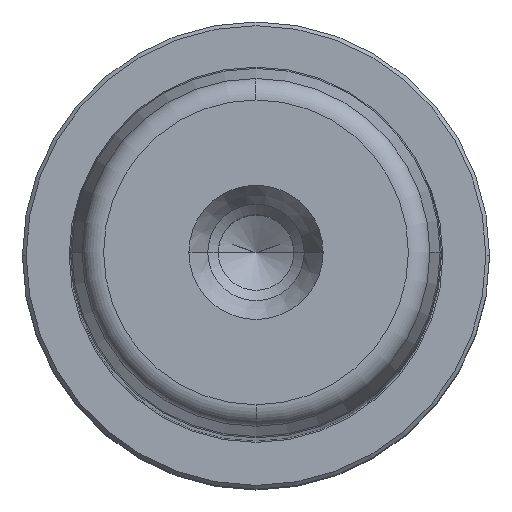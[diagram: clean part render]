
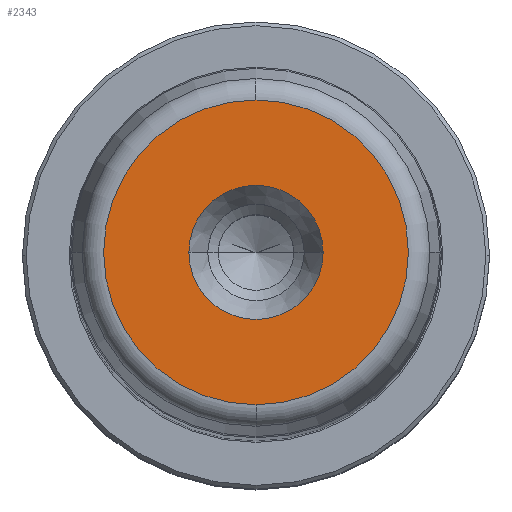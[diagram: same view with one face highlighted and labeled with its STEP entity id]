
A CAD part, top view. The second image highlights one B-rep face of the part: STEP entity #2343.
In plain terms, the highlighted planar face has unit normal (0, 0, 1).
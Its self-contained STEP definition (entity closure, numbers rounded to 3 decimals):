
#431=CARTESIAN_POINT('',(9.05,0.,250.0));
#432=VERTEX_POINT('',#431);
#439=CARTESIAN_POINT('',(-9.05,0.,250.0));
#440=VERTEX_POINT('',#439);
#441=CARTESIAN_POINT('',(0.0,0.,250.0));
#442=DIRECTION('',(0.0,0.0,1.0));
#443=DIRECTION('',(1.0,0.0,0.0));
#444=AXIS2_PLACEMENT_3D('',#441,#442,#443);
#445=CIRCLE('',#444,9.05);
#446=EDGE_CURVE('',#432,#440,#445,.T.);
#463=CARTESIAN_POINT('',(0.0,-20.554,250.0));
#464=VERTEX_POINT('',#463);
#474=CARTESIAN_POINT('',(0.,20.554,250.0));
#475=VERTEX_POINT('',#474);
#476=CARTESIAN_POINT('',(0.0,0.,250.0));
#477=DIRECTION('',(0.0,0.0,1.0));
#478=DIRECTION('',(1.0,0.0,0.0));
#479=AXIS2_PLACEMENT_3D('',#476,#477,#478);
#480=CIRCLE('',#479,20.554);
#481=EDGE_CURVE('',#475,#464,#480,.T.);
#2304=CARTESIAN_POINT('',(20.554,0.,250.0));
#2305=VERTEX_POINT('',#2304);
#2306=CARTESIAN_POINT('',(0.0,0.,250.0));
#2307=DIRECTION('',(0.0,0.0,1.0));
#2308=DIRECTION('',(1.0,0.0,0.0));
#2309=AXIS2_PLACEMENT_3D('',#2306,#2307,#2308);
#2310=CIRCLE('',#2309,20.554);
#2311=EDGE_CURVE('',#2305,#475,#2310,.T.);
#2313=CARTESIAN_POINT('',(0.0,0.,250.0));
#2314=DIRECTION('',(0.0,0.0,1.0));
#2315=DIRECTION('',(1.0,0.0,0.0));
#2316=AXIS2_PLACEMENT_3D('',#2313,#2314,#2315);
#2317=CIRCLE('',#2316,20.554);
#2318=EDGE_CURVE('',#464,#2305,#2317,.T.);
#2323=CARTESIAN_POINT('',(14.802,0.,250.0));
#2324=DIRECTION('',(0.0,0.0,1.0));
#2325=DIRECTION('',(0.0,-1.0,0.0));
#2326=AXIS2_PLACEMENT_3D('',#2323,#2324,#2325);
#2327=PLANE('',#2326);
#2328=ORIENTED_EDGE('',*,*,#2311,.T.);
#2329=ORIENTED_EDGE('',*,*,#481,.T.);
#2330=ORIENTED_EDGE('',*,*,#2318,.T.);
#2331=EDGE_LOOP('',(#2328,#2329,#2330));
#2332=FACE_OUTER_BOUND('',#2331,.T.);
#2333=ORIENTED_EDGE('',*,*,#446,.F.);
#2334=CARTESIAN_POINT('',(0.0,0.,250.0));
#2335=DIRECTION('',(0.0,0.0,1.0));
#2336=DIRECTION('',(1.0,0.0,0.0));
#2337=AXIS2_PLACEMENT_3D('',#2334,#2335,#2336);
#2338=CIRCLE('',#2337,9.05);
#2339=EDGE_CURVE('',#440,#432,#2338,.T.);
#2340=ORIENTED_EDGE('',*,*,#2339,.F.);
#2341=EDGE_LOOP('',(#2333,#2340));
#2342=FACE_BOUND('',#2341,.T.);
#2343=ADVANCED_FACE('',(#2332,#2342),#2327,.T.);
